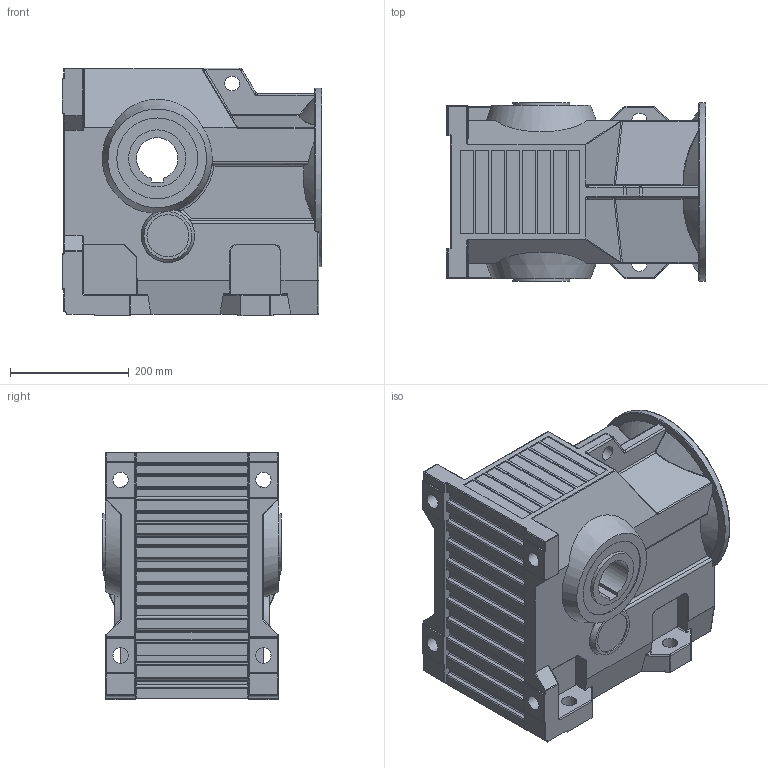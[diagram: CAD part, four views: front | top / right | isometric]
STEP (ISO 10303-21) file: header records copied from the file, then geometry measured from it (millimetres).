
FILE_DESCRIPTION((''),'2;1');
FILE_NAME('F:\PAWEŁ\ZLECENIA\2011 DualSystem\Przekładnie DK\001 Modele\DKAB90_\DK_90_STEP\DK_B_90.stp','2012-06-26T19:14:42',('admin'),(''),'Autodesk Inventor 2009','Autodesk Inventor 2009','');
FILE_SCHEMA(('AUTOMOTIVE_DESIGN { 1 0 10303 214 1 1 1 1 }'));
Length unit declared in the file: millimetre
Products named in the file (1): DK_B_90
Bounding box: 437 x 300 x 417 mm (x, y, z)
Volume: 37570386.6 mm3; surface area: 984121.2 mm2
Topology: 1 solids, 1 shells, 732 faces, 1785 edges, 1036 vertices
Faces by surface type: cylinder 300, plane 190, bspline 161, sphere 36, torus 34, cone 11
Full cylindrical faces by diameter (mm): 25 x1, 26 x4, 70.674 x2, 96.074 x1, 136.074 x1, 220 x1, 300 x1
Entity records: 25970 total; most frequent: CARTESIAN_POINT 9362, DIRECTION 3489, ORIENTED_EDGE 3438, EDGE_CURVE 1719, AXIS2_PLACEMENT_3D 1333, VERTEX_POINT 1027, VECTOR 823, LINE 823
